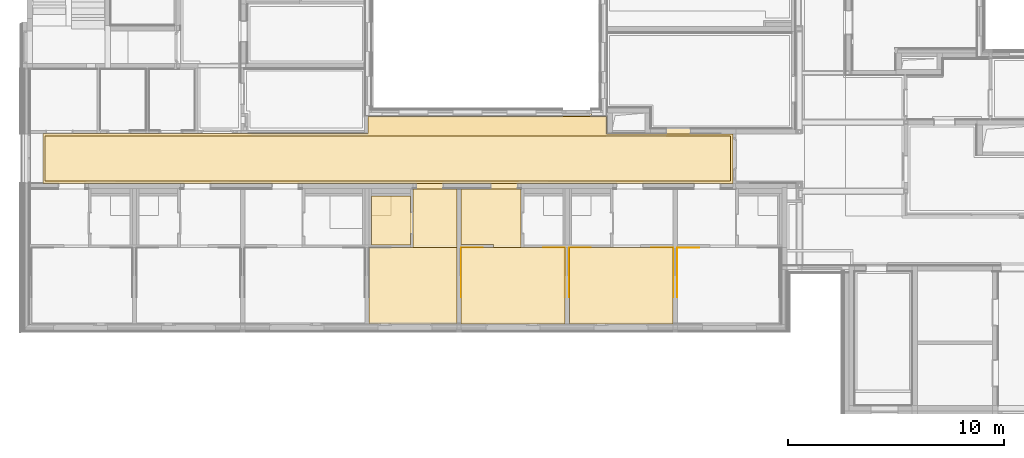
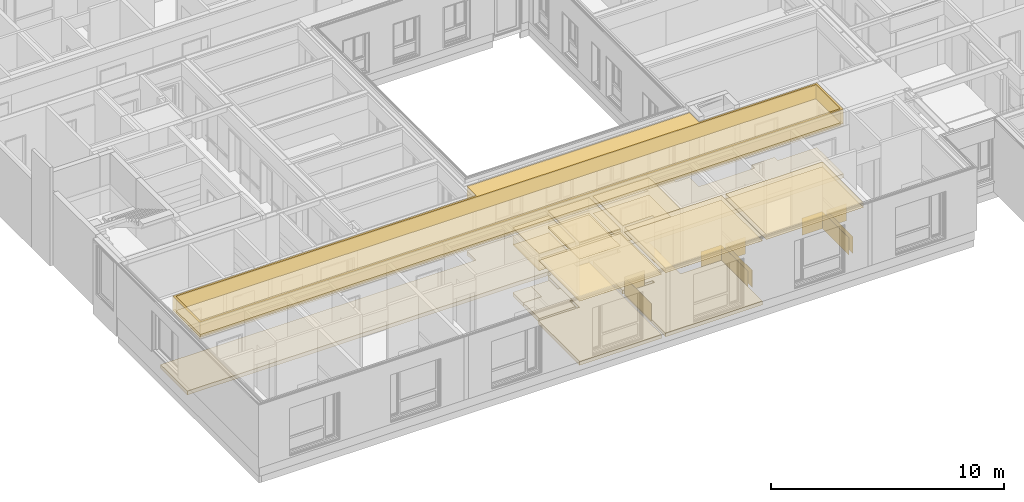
# One storey, part 160 of 207: 40 coverings.
"""IFC4 building model written with IfcOpenShell, lengths in metres."""

from ifc_helpers import new_model, entity, si_unit, converted_unit, derived_unit, frame, frame_2d, origin, origin_with_axes, place, context, subcontext, project, spatial, polyline, rectangle, outline, extrude, material, layer, layer_set, layer_usage, element, save


model = new_model("IFC4")

# Units and contexts
model_context = context("Model", 3, precision=1e-05, world=origin())
body_context = subcontext(model_context, "Body", "Model", "MODEL_VIEW")
ifc_project = project(units=[si_unit("LENGTHUNIT", "METRE"), si_unit("AREAUNIT", "SQUARE_METRE"), si_unit("VOLUMEUNIT", "CUBIC_METRE"), si_unit("MASSUNIT", "GRAM", prefix="KILO"), converted_unit("PLANEANGLEUNIT", "DEGREE", entity("IfcPlaneAngleMeasure", 0.0174532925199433), si_unit("PLANEANGLEUNIT", "RADIAN"), dimensions=[0, 0, 0, 0, 0, 0, 0]), derived_unit("THERMALTRANSMITTANCEUNIT", [(si_unit("POWERUNIT", "WATT"), 1), (si_unit("THERMODYNAMICTEMPERATUREUNIT", "KELVIN"), -1), (si_unit("LENGTHUNIT", "METRE"), -2)]), derived_unit("VOLUMETRICFLOWRATEUNIT", [(si_unit("LENGTHUNIT", "METRE"), 3), (converted_unit("TIMEUNIT", "hour", entity("IfcTimeMeasure", 3600.0), si_unit("TIMEUNIT", "SECOND"), dimensions=[0, 0, 1, 0, 0, 0, 0]), -1), (si_unit("LENGTHUNIT", "METRE"), -1)])], contexts=[model_context])

# Site, building, storey, space
site_placement = place(None, origin())
site = spatial("IfcSite", under=ifc_project, at=site_placement, Name="Psychiatrie Neubau Wunstorf", CompositionType="ELEMENT")
building_placement = place(site_placement, origin())
building = spatial("IfcBuilding", under=site, at=building_placement, Name="Neubau H2 Stationsgebäude", CompositionType="ELEMENT")
storey_placement = place(building_placement, frame((0.0, 0.0, -0.2)))
storey = spatial("IfcBuildingStorey", under=building, at=storey_placement, Name="H2 Ebene 0", CompositionType="ELEMENT", Elevation=-0.2)
space_1_placement = place(storey_placement, frame((0.169, 4.33074963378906, 0.0)))
space_1 = spatial("IfcSpace", under=storey, at=space_1_placement, Name="WUN-H2-E00-F04", CompositionType="ELEMENT")

# Coverings
ifc_material_1 = material(Name="Ku1")
ifc_layer_1 = layer(ifc_material_1, 0.2)
ifc_layer_set_1 = layer_set([ifc_layer_1])
ifc_layer_usage_1 = layer_usage(ifc_layer_set_1, "AXIS3", "POSITIVE", 0.0)
covering_1_placement = place(space_1_placement, origin())
element("IfcCovering", 1, at=covering_1_placement, inside=space_1, material=ifc_layer_usage_1, Name="PVC Bahnenware Holzoptik", PredefinedType="FLOORING", context=body_context, shape_type="SweptSolid", body=[
    extrude(rectangle(XDim=0.312, YDim=1.35, at=frame_2d((-0.674999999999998, 0.156), x_axis=(0.0, 1.0))), frame((25.9511686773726, 3.08325036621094, 0.0), z_axis=(0.0, 0.0, 1.0), x_axis=(1.0, 0.0, 0.0)), (0.0, 0.0, 1.0), 0.2),
    extrude(rectangle(XDim=0.272, YDim=1.135, at=frame_2d((-0.5675, 0.136), x_axis=(0.0, 1.0))), frame((30.546, 2.2812503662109, 0.0), z_axis=(0.0, 0.0, 1.0), x_axis=(1.0, 0.0, 0.0)), (0.0, 0.0, 1.0), 0.2),
    extrude(outline(polyline([(26.6510003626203, 2.2812503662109), (26.6510003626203, 3.08325036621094), (15.62, 3.08325036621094), (15.62, 2.2942502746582), (0.0, 2.29425027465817), (0.0, 0.0), (32.4944999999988, 0.0), (32.4944999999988, 2.28125036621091), (26.6510003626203, 2.2812503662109)])), origin_with_axes(), (0.0, 0.0, 1.0), 0.2),
])
ifc_material_2 = material()
ifc_layer_2 = layer(ifc_material_2, 0.036)
ifc_layer_set_2 = layer_set([ifc_layer_2])
ifc_layer_usage_2 = layer_usage(ifc_layer_set_2, "AXIS3", "POSITIVE", 0.0)
covering_2_placement = place(space_1_placement, frame((0.701000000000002, 0.100000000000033, 3.6)))
element("IfcCovering", 2, at=covering_2_placement, inside=space_1, material=ifc_layer_usage_2, Name="Gipsfaserplatten 2-lagig (BSK)", PredefinedType="CEILING", context=body_context, shape_type="SweptSolid", body=[
    extrude(outline(polyline([(0.0, 2.09425036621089), (0.0, 0.0), (31.6934999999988, 0.0129999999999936), (31.6934999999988, 2.09425036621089), (0.0, 2.09425036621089)])), frame((0.0, 2.09425036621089, 0.0), z_axis=(0.0, 0.0, -1.0), x_axis=(1.0, 0.0, 0.0)), (0.0, 0.0, 1.0), 0.036),
])
ifc_material_3 = material(Name="Installationshöhe")
ifc_layer_3 = layer(ifc_material_3, 0.714)
ifc_layer_set_3 = layer_set([ifc_layer_3])
ifc_layer_usage_3 = layer_usage(ifc_layer_set_3, "AXIS3", "POSITIVE", 0.0)
covering_3_placement = place(space_1_placement, frame((0.701000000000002, 0.100000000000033, 3.564)))
element("IfcCovering", 3, at=covering_3_placement, inside=space_1, material=ifc_layer_usage_3, Name="Gipsfaserplatten 2-lagig (BSK)", PredefinedType="CEILING", context=body_context, shape_type="SweptSolid", body=[
    extrude(outline(polyline([(0.0, 2.09425036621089), (0.0, 0.0), (31.6934999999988, 0.0129999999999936), (31.6934999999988, 2.09425036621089), (0.0, 2.09425036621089)])), frame((0.0, 2.09425036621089, 0.0), z_axis=(0.0, 0.0, -1.0), x_axis=(1.0, 0.0, 0.0)), (0.0, 0.0, 1.0), 0.714),
])
ifc_material_4 = material(Name="Aa")
ifc_layer_4 = layer(ifc_material_4, 0.15)
ifc_layer_set_4 = layer_set([ifc_layer_4])
ifc_layer_usage_4 = layer_usage(ifc_layer_set_4, "AXIS3", "POSITIVE", 0.0)
covering_4_placement = place(space_1_placement, frame((0.701000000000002, 0.100000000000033, 2.85)))
element("IfcCovering", 4, at=covering_4_placement, inside=space_1, material=ifc_layer_usage_4, Name="Gipsfaserplatten 2-lagig (BSK)", PredefinedType="CEILING", context=body_context, shape_type="SweptSolid", body=[
    extrude(outline(polyline([(0.0, 2.09425036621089), (0.0, 0.0), (31.6934999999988, 0.0129999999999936), (31.6934999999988, 2.09425036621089), (0.0, 2.09425036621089)])), frame((0.0, 2.09425036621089, 0.0), z_axis=(0.0, 0.0, -1.0), x_axis=(1.0, 0.0, 0.0)), (0.0, 0.0, 1.0), 0.15),
])
ifc_material_5 = material(Name="D1")
ifc_layer_5 = layer(ifc_material_5, 0.001)
ifc_layer_set_5 = layer_set([ifc_layer_5])
ifc_layer_usage_5 = layer_usage(ifc_layer_set_5, "AXIS3", "POSITIVE", 0.0)
covering_5_placement = place(space_1_placement, frame((0.701000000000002, 0.100000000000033, 2.7)))
element("IfcCovering", 5, at=covering_5_placement, inside=space_1, material=ifc_layer_usage_5, Name="Gipsfaserplatten 2-lagig (BSK)", PredefinedType="CEILING", context=body_context, shape_type="SweptSolid", body=[
    extrude(outline(polyline([(0.0, 2.09425036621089), (0.0, 0.0), (31.6934999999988, 0.0129999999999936), (31.6934999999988, 2.09425036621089), (0.0, 2.09425036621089)])), frame((0.0, 2.09425036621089, 0.0), z_axis=(0.0, 0.0, -1.0), x_axis=(1.0, 0.0, 0.0)), (0.0, 0.0, 1.0), 0.001),
])
ifc_material_6 = material()
ifc_layer_6 = layer(ifc_material_6, 0.036)
ifc_layer_set_6 = layer_set([ifc_layer_6])
ifc_layer_usage_6 = layer_usage(ifc_layer_set_6, "AXIS3", "POSITIVE", 0.0)
covering_6_placement = place(space_1_placement, frame((0.600999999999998, 0.0, 3.6)))
element("IfcCovering", 6, at=covering_6_placement, inside=space_1, material=ifc_layer_usage_6, Name="Gipsfaserplatten 2-lagig (BSK)", PredefinedType="CEILING", context=body_context, shape_type="SweptSolid", body=[
    extrude(outline(polyline([(26.0500003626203, 0.802000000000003), (31.8934999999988, 0.802000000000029), (31.8934999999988, 3.0832503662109), (0.0, 3.0832503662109), (0.0, 0.789), (15.019, 0.789000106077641), (15.019, 0.0), (26.0500003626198, 0.0), (26.0500003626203, 0.802000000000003)]), holes=[polyline([(31.7934999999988, 2.9832503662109), (31.7934999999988, 0.902000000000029), (0.1, 0.889000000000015), (0.1, 2.9832503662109), (31.7934999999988, 2.9832503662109)])]), frame((0.0, 3.0832503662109, 0.0), z_axis=(0.0, 0.0, -1.0), x_axis=(1.0, 0.0, 0.0)), (0.0, 0.0, 1.0), 0.036),
])
ifc_material_7 = material(Name="Installationshöhe")
ifc_layer_7 = layer(ifc_material_7, 0.714)
ifc_layer_set_7 = layer_set([ifc_layer_7])
ifc_layer_usage_7 = layer_usage(ifc_layer_set_7, "AXIS3", "POSITIVE", 0.0)
covering_7_placement = place(space_1_placement, frame((0.600999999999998, 0.0, 3.564)))
element("IfcCovering", 7, at=covering_7_placement, inside=space_1, material=ifc_layer_usage_7, Name="Gipsfaserplatten 2-lagig (BSK)", PredefinedType="CEILING", context=body_context, shape_type="SweptSolid", body=[
    extrude(outline(polyline([(26.0500003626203, 0.802000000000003), (31.8934999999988, 0.802000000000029), (31.8934999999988, 3.0832503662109), (0.0, 3.0832503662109), (0.0, 0.789), (15.019, 0.789000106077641), (15.019, 0.0), (26.0500003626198, 0.0), (26.0500003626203, 0.802000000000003)]), holes=[polyline([(31.7934999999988, 2.9832503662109), (31.7934999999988, 0.902000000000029), (0.1, 0.889000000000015), (0.1, 2.9832503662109), (31.7934999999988, 2.9832503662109)])]), frame((0.0, 3.0832503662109, 0.0), z_axis=(0.0, 0.0, -1.0), x_axis=(1.0, 0.0, 0.0)), (0.0, 0.0, 1.0), 0.714),
])
ifc_material_8 = material(Name="A1")
ifc_layer_8 = layer(ifc_material_8, 0.15)
ifc_layer_set_8 = layer_set([ifc_layer_8])
ifc_layer_usage_8 = layer_usage(ifc_layer_set_8, "AXIS3", "POSITIVE", 0.0)
covering_8_placement = place(space_1_placement, frame((0.600999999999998, 0.0, 2.85)))
element("IfcCovering", 8, at=covering_8_placement, inside=space_1, material=ifc_layer_usage_8, Name="Gipsfaserplatten 2-lagig (BSK)", PredefinedType="CEILING", context=body_context, shape_type="SweptSolid", body=[
    extrude(outline(polyline([(26.0500003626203, 0.802000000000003), (31.8934999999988, 0.802000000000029), (31.8934999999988, 3.0832503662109), (0.0, 3.0832503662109), (0.0, 0.789), (15.019, 0.789000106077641), (15.019, 0.0), (26.0500003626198, 0.0), (26.0500003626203, 0.802000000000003)]), holes=[polyline([(31.7934999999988, 2.9832503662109), (31.7934999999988, 0.902000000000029), (0.1, 0.889000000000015), (0.1, 2.9832503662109), (31.7934999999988, 2.9832503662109)])]), frame((0.0, 3.0832503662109, 0.0), z_axis=(0.0, 0.0, -1.0), x_axis=(1.0, 0.0, 0.0)), (0.0, 0.0, 1.0), 0.15),
])
ifc_material_9 = material(Name="D1")
ifc_layer_9 = layer(ifc_material_9, 0.001)
ifc_layer_set_9 = layer_set([ifc_layer_9])
ifc_layer_usage_9 = layer_usage(ifc_layer_set_9, "AXIS3", "POSITIVE", 0.0)
covering_9_placement = place(space_1_placement, frame((0.600999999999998, 0.0, 2.7)))
element("IfcCovering", 9, at=covering_9_placement, inside=space_1, material=ifc_layer_usage_9, Name="Gipsfaserplatten 2-lagig (BSK)", PredefinedType="CEILING", context=body_context, shape_type="SweptSolid", body=[
    extrude(outline(polyline([(26.0500003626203, 0.802000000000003), (31.8934999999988, 0.802000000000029), (31.8934999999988, 3.0832503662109), (0.0, 3.0832503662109), (0.0, 0.789), (15.019, 0.789000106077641), (15.019, 0.0), (26.0500003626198, 0.0), (26.0500003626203, 0.802000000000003)]), holes=[polyline([(31.7934999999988, 2.9832503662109), (31.7934999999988, 0.902000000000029), (0.1, 0.889000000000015), (0.1, 2.9832503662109), (31.7934999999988, 2.9832503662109)])]), frame((0.0, 3.0832503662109, 0.0), z_axis=(0.0, 0.0, -1.0), x_axis=(1.0, 0.0, 0.0)), (0.0, 0.0, 1.0), 0.001),
])

# Space
space_2_placement = place(storey_placement, frame((15.95, 1.48374963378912, 0.0)))
space_2 = spatial("IfcSpace", under=storey, at=space_2_placement, Name="WUN-H2-E00-022a", CompositionType="ELEMENT")

# Coverings
ifc_material_10 = material(Name="Fl1")
ifc_layer_10 = layer(ifc_material_10, 0.2)
ifc_layer_set_10 = layer_set([ifc_layer_10])
ifc_layer_usage_10 = layer_usage(ifc_layer_set_10, "AXIS3", "POSITIVE", 0.0)
covering_10_placement = place(space_2_placement, origin())
element("IfcCovering", 10, at=covering_10_placement, inside=space_2, material=ifc_layer_usage_10, Name="Fliesen", PredefinedType="FLOORING", context=body_context, shape_type="SweptSolid", body=[
    extrude(rectangle(XDim=0.125, YDim=1.01, at=frame_2d((-0.0625, -0.505), x_axis=(-1.0, 0.0))), frame((1.925, 1.50999999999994, 0.0), z_axis=(0.0, 0.0, 1.0), x_axis=(1.0, 0.0, 0.0)), (0.0, 0.0, 1.0), 0.2),
    extrude(outline(polyline([(0.0, 0.0), (1.8, 0.0), (1.8, 2.265), (0.900000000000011, 2.265), (0.900000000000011, 1.36499999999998), (0.0, 1.36499999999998), (0.0, 0.0)])), origin_with_axes(), (0.0, 0.0, 1.0), 0.2),
])
ifc_material_11 = material(Name="Fl2")
ifc_layer_11 = layer(ifc_material_11, 0.2)
ifc_layer_set_11 = layer_set([ifc_layer_11])
ifc_layer_usage_11 = layer_usage(ifc_layer_set_11, "AXIS3", "POSITIVE", 0.0)
covering_11_placement = place(space_2_placement, frame((0.0, 1.36499999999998, 0.0)))
element("IfcCovering", 11, at=covering_11_placement, inside=space_2, material=ifc_layer_usage_11, Name="Fliesen Mosaik", PredefinedType="FLOORING", context=body_context, shape_type="SweptSolid", body=[
    extrude(rectangle(XDim=0.899999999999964, YDim=0.900000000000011, at=frame_2d((0.450000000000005, -0.449999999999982), x_axis=(0.0, -1.0))), frame((0.0, 0.899999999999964, 0.0), z_axis=(0.0, 0.0, 1.0), x_axis=(1.0, 0.0, 0.0)), (0.0, 0.0, 1.0), 0.2),
])
ifc_material_12 = material()
ifc_layer_12 = layer(ifc_material_12, 0.036)
ifc_layer_set_12 = layer_set([ifc_layer_12])
ifc_layer_usage_12 = layer_usage(ifc_layer_set_12, "AXIS3", "POSITIVE", 0.0)
covering_12_placement = place(space_2_placement, frame((0.0, 0.0, 3.6)))
element("IfcCovering", 12, at=covering_12_placement, inside=space_2, material=ifc_layer_usage_12, Name="Gipsfaserplatten 2-lagig (BSK)", PredefinedType="CEILING", context=body_context, shape_type="SweptSolid", body=[
    extrude(rectangle(XDim=2.265, YDim=1.8, at=frame_2d((0.9, -1.1325), x_axis=(0.0, -1.0))), frame((0.0, 0.0, 0.0), z_axis=(0.0, 0.0, -1.0), x_axis=(1.0, 0.0, 0.0)), (0.0, 0.0, 1.0), 0.036),
])
ifc_material_13 = material(Name="Installationshöhe")
ifc_layer_13 = layer(ifc_material_13, 0.764)
ifc_layer_set_13 = layer_set([ifc_layer_13])
ifc_layer_usage_13 = layer_usage(ifc_layer_set_13, "AXIS3", "POSITIVE", 0.0)
covering_13_placement = place(space_2_placement, frame((0.0, 0.0, 3.564)))
element("IfcCovering", 13, at=covering_13_placement, inside=space_2, material=ifc_layer_usage_13, Name="Gipsfaserplatten 2-lagig (BSK)", PredefinedType="CEILING", context=body_context, shape_type="SweptSolid", body=[
    extrude(rectangle(XDim=2.265, YDim=1.8, at=frame_2d((0.9, -1.1325), x_axis=(0.0, -1.0))), frame((0.0, 0.0, 0.0), z_axis=(0.0, 0.0, -1.0), x_axis=(1.0, 0.0, 0.0)), (0.0, 0.0, 1.0), 0.764),
])
ifc_material_14 = material(Name="B")
ifc_layer_14 = layer(ifc_material_14, 0.1)
ifc_layer_set_14 = layer_set([ifc_layer_14])
ifc_layer_usage_14 = layer_usage(ifc_layer_set_14, "AXIS3", "POSITIVE", 0.0)
covering_14_placement = place(space_2_placement, frame((0.0, 0.0, 2.8)))
element("IfcCovering", 14, at=covering_14_placement, inside=space_2, material=ifc_layer_usage_14, Name="Gipskarton, imprägniert", PredefinedType="CEILING", context=body_context, shape_type="SweptSolid", body=[
    extrude(rectangle(XDim=2.265, YDim=1.8, at=frame_2d((0.9, -1.1325), x_axis=(0.0, -1.0))), frame((0.0, 0.0, 0.0), z_axis=(0.0, 0.0, -1.0), x_axis=(1.0, 0.0, 0.0)), (0.0, 0.0, 1.0), 0.1),
])
ifc_material_15 = material(Name="D1")
ifc_layer_15 = layer(ifc_material_15, 0.001)
ifc_layer_set_15 = layer_set([ifc_layer_15])
ifc_layer_usage_15 = layer_usage(ifc_layer_set_15, "AXIS3", "POSITIVE", 0.0)
covering_15_placement = place(space_2_placement, frame((0.0, 0.0, 2.7)))
element("IfcCovering", 15, at=covering_15_placement, inside=space_2, material=ifc_layer_usage_15, Name="Gipsfaserplatten 2-lagig (BSK)", PredefinedType="CEILING", context=body_context, shape_type="SweptSolid", body=[
    extrude(rectangle(XDim=2.265, YDim=1.8, at=frame_2d((0.9, -1.1325), x_axis=(0.0, -1.0))), frame((0.0, 0.0, 0.0), z_axis=(0.0, 0.0, -1.0), x_axis=(1.0, 0.0, 0.0)), (0.0, 0.0, 1.0), 0.001),
])

# Space
space_3_placement = place(storey_placement, frame((15.85, -2.16399999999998, 0.0)))
space_3 = spatial("IfcSpace", under=storey, at=space_3_placement, Name="WUN-H2-E00-022", CompositionType="ELEMENT")

# Coverings
ifc_material_16 = material(Name="Ku1")
ifc_layer_16 = layer(ifc_material_16, 0.2)
ifc_layer_set_16 = layer_set([ifc_layer_16])
ifc_layer_usage_16 = layer_usage(ifc_layer_set_16, "AXIS3", "POSITIVE", 0.0)
covering_16_placement = place(space_3_placement, origin())
element("IfcCovering", 16, at=covering_16_placement, inside=space_3, material=ifc_layer_usage_16, Name="PVC Bahnenware Holzoptik", PredefinedType="FLOORING", context=body_context, shape_type="SweptSolid", body=[
    extrude(rectangle(XDim=0.2715, YDim=1.26, at=frame_2d((-0.63, 0.13575), x_axis=(0.0, 1.0))), frame((3.435, 6.22324963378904, 0.0), z_axis=(0.0, 0.0, 1.0), x_axis=(1.0, 0.0, 0.0)), (0.0, 0.0, 1.0), 0.2),
    extrude(outline(polyline([(2.025, 6.22324963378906), (2.025, 3.52274963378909), (0.0, 3.52274963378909), (0.0, 0.0), (4.05, 0.0), (4.05, 6.22324963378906), (2.025, 6.22324963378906)])), origin_with_axes(), (0.0, 0.0, 1.0), 0.2),
])
ifc_material_17 = material()
ifc_layer_17 = layer(ifc_material_17, 0.036)
ifc_layer_set_17 = layer_set([ifc_layer_17])
ifc_layer_usage_17 = layer_usage(ifc_layer_set_17, "AXIS3", "POSITIVE", 0.0)
covering_17_placement = place(space_3_placement, frame((2.025, 3.52274963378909, 3.6)))
element("IfcCovering", 17, at=covering_17_placement, inside=space_3, material=ifc_layer_usage_17, Name="Gipsfaserplatten 2-lagig (BSK)", PredefinedType="CEILING", context=body_context, shape_type="SweptSolid", body=[
    extrude(rectangle(XDim=2.025, YDim=2.70049999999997, at=frame_2d((1.0125, 1.35024999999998), x_axis=(1.0, 0.0))), frame((0.0, 2.70049999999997, 0.0), z_axis=(0.0, 0.0, -1.0), x_axis=(1.0, 0.0, 0.0)), (0.0, 0.0, 1.0), 0.036),
])
ifc_material_18 = material(Name="Installationshöhe")
ifc_layer_18 = layer(ifc_material_18, 0.764)
ifc_layer_set_18 = layer_set([ifc_layer_18])
ifc_layer_usage_18 = layer_usage(ifc_layer_set_18, "AXIS3", "POSITIVE", 0.0)
covering_18_placement = place(space_3_placement, frame((2.025, 3.52274963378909, 3.564)))
element("IfcCovering", 18, at=covering_18_placement, inside=space_3, material=ifc_layer_usage_18, Name="Gipsfaserplatten 2-lagig (BSK)", PredefinedType="CEILING", context=body_context, shape_type="SweptSolid", body=[
    extrude(rectangle(XDim=2.025, YDim=2.70049999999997, at=frame_2d((1.0125, 1.35024999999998), x_axis=(1.0, 0.0))), frame((0.0, 2.70049999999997, 0.0), z_axis=(0.0, 0.0, -1.0), x_axis=(1.0, 0.0, 0.0)), (0.0, 0.0, 1.0), 0.764),
])
ifc_material_19 = material(Name="A1")
ifc_layer_19 = layer(ifc_material_19, 0.1)
ifc_layer_set_19 = layer_set([ifc_layer_19])
ifc_layer_usage_19 = layer_usage(ifc_layer_set_19, "AXIS3", "POSITIVE", 0.0)
covering_19_placement = place(space_3_placement, frame((2.025, 3.52274963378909, 2.8)))
element("IfcCovering", 19, at=covering_19_placement, inside=space_3, material=ifc_layer_usage_19, Name="Gipsfaserplatten 2-lagig (BSK)", PredefinedType="CEILING", context=body_context, shape_type="SweptSolid", body=[
    extrude(rectangle(XDim=2.025, YDim=2.70049999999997, at=frame_2d((1.0125, 1.35024999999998), x_axis=(1.0, 0.0))), frame((0.0, 2.70049999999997, 0.0), z_axis=(0.0, 0.0, -1.0), x_axis=(1.0, 0.0, 0.0)), (0.0, 0.0, 1.0), 0.1),
])
ifc_material_20 = material(Name="D1")
ifc_layer_20 = layer(ifc_material_20, 0.001)
ifc_layer_set_20 = layer_set([ifc_layer_20])
ifc_layer_usage_20 = layer_usage(ifc_layer_set_20, "AXIS3", "POSITIVE", 0.0)
covering_20_placement = place(space_3_placement, frame((2.025, 3.52274963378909, 2.7)))
element("IfcCovering", 20, at=covering_20_placement, inside=space_3, material=ifc_layer_usage_20, Name="Gipsfaserplatten 2-lagig (BSK)", PredefinedType="CEILING", context=body_context, shape_type="SweptSolid", body=[
    extrude(rectangle(XDim=2.025, YDim=2.70049999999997, at=frame_2d((1.0125, 1.35024999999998), x_axis=(1.0, 0.0))), frame((0.0, 2.70049999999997, 0.0), z_axis=(0.0, 0.0, -1.0), x_axis=(1.0, 0.0, 0.0)), (0.0, 0.0, 1.0), 0.001),
])
ifc_material_21 = material(Name="A1")
ifc_layer_21 = layer(ifc_material_21, 0.1)
ifc_layer_set_21 = layer_set([ifc_layer_21])
ifc_layer_usage_21 = layer_usage(ifc_layer_set_21, "AXIS3", "POSITIVE", 0.0)
covering_21_placement = place(space_3_placement, frame((0.0, 0.0, 3.45)))
element("IfcCovering", 21, at=covering_21_placement, inside=space_3, material=ifc_layer_usage_21, Name="Gipsfaserplatten 2-lagig (BSK)", PredefinedType="CEILING", context=body_context, shape_type="SweptSolid", body=[
    extrude(rectangle(XDim=3.52274963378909, YDim=4.05, at=frame_2d((-2.025, 1.76137481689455), x_axis=(0.0, 1.0))), frame((4.05, 3.52274963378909, 0.0), z_axis=(0.0, 0.0, -1.0), x_axis=(1.0, 0.0, 0.0)), (0.0, 0.0, 1.0), 0.1),
])
ifc_material_22 = material(Name="D1")
ifc_layer_22 = layer(ifc_material_22, 0.001)
ifc_layer_set_22 = layer_set([ifc_layer_22])
ifc_layer_usage_22 = layer_usage(ifc_layer_set_22, "AXIS3", "POSITIVE", 0.0)
covering_22_placement = place(space_3_placement, frame((0.0, 0.0, 3.35)))
element("IfcCovering", 22, at=covering_22_placement, inside=space_3, material=ifc_layer_usage_22, Name="Gipsfaserplatten 2-lagig (BSK)", PredefinedType="CEILING", context=body_context, shape_type="SweptSolid", body=[
    extrude(rectangle(XDim=3.52274963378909, YDim=4.05, at=frame_2d((-2.025, 1.76137481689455), x_axis=(0.0, 1.0))), frame((4.05, 3.52274963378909, 0.0), z_axis=(0.0, 0.0, -1.0), x_axis=(1.0, 0.0, 0.0)), (0.0, 0.0, 1.0), 0.001),
])

# Space
space_4_placement = place(storey_placement, frame((20.1, -2.16399999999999, 0.0)))
space_4 = spatial("IfcSpace", under=storey, at=space_4_placement, Name="WUN-H2-E00-021", CompositionType="ELEMENT")

# Coverings
ifc_material_23 = material(Name="84")
ifc_layer_23 = layer(ifc_material_23, 0.001)
ifc_layer_set_23 = layer_set([ifc_layer_23])
ifc_layer_usage_23 = layer_usage(ifc_layer_set_23, "AXIS3", "POSITIVE", 0.0)
covering_23_placement = place(space_4_placement, frame((0.0, 1.22274963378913, 0.1)))
element("IfcCovering", 23, at=covering_23_placement, inside=space_4, material=ifc_layer_usage_23, Name="Acrobyn", PredefinedType="CLADDING", context=body_context, shape_type="SweptSolid", body=[
    extrude(rectangle(XDim=1.0, YDim=0.9, at=frame_2d((0.5, -0.45), x_axis=(1.0, 0.0))), frame((1.0, 2.3, 0.0), z_axis=(0.0, -1.0, 0.0), x_axis=(-1.0, 0.0, 0.0)), (0.0, 0.0, 1.0), 0.001),
    extrude(rectangle(XDim=2.3, YDim=0.9, at=frame_2d((1.15, -0.45), x_axis=(1.0, 0.0))), frame((0.0, 2.3, 0.0), z_axis=(1.0, 0.0, 0.0), x_axis=(0.0, -1.0, 0.0)), (0.0, 0.0, 1.0), 0.001),
])
ifc_material_24 = material(Name="84")
ifc_layer_24 = layer(ifc_material_24, 0.001)
ifc_layer_set_24 = layer_set([ifc_layer_24])
ifc_layer_usage_24 = layer_usage(ifc_layer_set_24, "AXIS3", "POSITIVE", 0.0)
covering_24_placement = place(space_4_placement, frame((3.8, 1.22274957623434, 0.1)))
element("IfcCovering", 24, at=covering_24_placement, inside=space_4, material=ifc_layer_usage_24, Name="Acrobyn", PredefinedType="CLADDING", context=body_context, shape_type="SweptSolid", body=[
    extrude(rectangle(XDim=0.9, YDim=1.0, at=frame_2d((-0.5, -0.45), x_axis=(0.0, -1.0))), frame((0.0, 2.3, 0.0), z_axis=(4.54747350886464e-16, -1.0, 0.0), x_axis=(-1.0, -4.54747350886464e-16, 0.0)), (0.0, 0.0, 1.0), 0.001),
    extrude(rectangle(XDim=0.9, YDim=2.3, at=frame_2d((-1.15, -0.45), x_axis=(0.0, -1.0))), frame((1.0, 2.3, 0.0), z_axis=(-1.0, 0.0, 0.0), x_axis=(0.0, 1.0, 0.0)), (0.0, 0.0, 1.0), 0.001),
])
ifc_material_25 = material(Name="Ku1")
ifc_layer_25 = layer(ifc_material_25, 0.2)
ifc_layer_set_25 = layer_set([ifc_layer_25])
ifc_layer_usage_25 = layer_usage(ifc_layer_set_25, "AXIS3", "POSITIVE", 0.0)
covering_25_placement = place(space_4_placement, origin())
element("IfcCovering", 25, at=covering_25_placement, inside=space_4, material=ifc_layer_usage_25, Name="PVC Bahnenware Holzoptik", PredefinedType="FLOORING", context=body_context, shape_type="SweptSolid", body=[
    extrude(rectangle(XDim=0.2715, YDim=1.26, at=frame_2d((-0.63, 0.13575), x_axis=(0.0, 1.0))), frame((2.625, 6.22324963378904, 0.0), z_axis=(0.0, 0.0, 1.0), x_axis=(1.0, 0.0, 0.0)), (0.0, 0.0, 1.0), 0.2),
    extrude(outline(polyline([(2.77500000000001, 3.5227496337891), (2.775, 6.22324963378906), (0.0, 6.22324963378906), (0.0, 3.67274963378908), (1.5, 3.67274963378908), (1.5, 3.52274963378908), (0.0, 3.52274963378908), (0.0, 0.0), (4.8, 0.0), (4.8, 3.5227496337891), (2.77500000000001, 3.5227496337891)])), origin_with_axes(), (0.0, 0.0, 1.0), 0.2),
])
ifc_material_26 = material()
ifc_layer_26 = layer(ifc_material_26, 0.036)
ifc_layer_set_26 = layer_set([ifc_layer_26])
ifc_layer_usage_26 = layer_usage(ifc_layer_set_26, "AXIS3", "POSITIVE", 0.0)
covering_26_placement = place(space_4_placement, frame((0.0, 3.52274963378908, 3.6)))
element("IfcCovering", 26, at=covering_26_placement, inside=space_4, material=ifc_layer_usage_26, Name="Gipsfaserplatten 2-lagig (BSK)", PredefinedType="CEILING", context=body_context, shape_type="SweptSolid", body=[
    extrude(outline(polyline([(0.0, 0.0), (2.775, 0.0), (2.775, 2.70049999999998), (1.5, 2.70049999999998), (1.5, 2.55049999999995), (0.0, 2.55049999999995), (0.0, 0.0)])), frame((0.0, 2.70049999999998, 0.0), z_axis=(0.0, 0.0, -1.0), x_axis=(1.0, 0.0, 0.0)), (0.0, 0.0, 1.0), 0.036),
])
ifc_material_27 = material(Name="Installationshöhe")
ifc_layer_27 = layer(ifc_material_27, 0.764)
ifc_layer_set_27 = layer_set([ifc_layer_27])
ifc_layer_usage_27 = layer_usage(ifc_layer_set_27, "AXIS3", "POSITIVE", 0.0)
covering_27_placement = place(space_4_placement, frame((0.0, 3.52274963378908, 3.564)))
element("IfcCovering", 27, at=covering_27_placement, inside=space_4, material=ifc_layer_usage_27, Name="Gipsfaserplatten 2-lagig (BSK)", PredefinedType="CEILING", context=body_context, shape_type="SweptSolid", body=[
    extrude(outline(polyline([(0.0, 0.0), (2.775, 0.0), (2.775, 2.70049999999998), (1.5, 2.70049999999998), (1.5, 2.55049999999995), (0.0, 2.55049999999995), (0.0, 0.0)])), frame((0.0, 2.70049999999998, 0.0), z_axis=(0.0, 0.0, -1.0), x_axis=(1.0, 0.0, 0.0)), (0.0, 0.0, 1.0), 0.764),
])
ifc_material_28 = material(Name="A1")
ifc_layer_28 = layer(ifc_material_28, 0.1)
ifc_layer_set_28 = layer_set([ifc_layer_28])
ifc_layer_usage_28 = layer_usage(ifc_layer_set_28, "AXIS3", "POSITIVE", 0.0)
covering_28_placement = place(space_4_placement, frame((0.0, 3.52274963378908, 2.8)))
element("IfcCovering", 28, at=covering_28_placement, inside=space_4, material=ifc_layer_usage_28, Name="Gipsfaserplatten 2-lagig (BSK)", PredefinedType="CEILING", context=body_context, shape_type="SweptSolid", body=[
    extrude(outline(polyline([(0.0, 0.0), (2.775, 0.0), (2.775, 2.70049999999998), (1.5, 2.70049999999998), (1.5, 2.55049999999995), (0.0, 2.55049999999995), (0.0, 0.0)])), frame((0.0, 2.70049999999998, 0.0), z_axis=(0.0, 0.0, -1.0), x_axis=(1.0, 0.0, 0.0)), (0.0, 0.0, 1.0), 0.1),
])
ifc_material_29 = material(Name="D1")
ifc_layer_29 = layer(ifc_material_29, 0.001)
ifc_layer_set_29 = layer_set([ifc_layer_29])
ifc_layer_usage_29 = layer_usage(ifc_layer_set_29, "AXIS3", "POSITIVE", 0.0)
covering_29_placement = place(space_4_placement, frame((0.0, 3.52274963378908, 2.7)))
element("IfcCovering", 29, at=covering_29_placement, inside=space_4, material=ifc_layer_usage_29, Name="Gipsfaserplatten 2-lagig (BSK)", PredefinedType="CEILING", context=body_context, shape_type="SweptSolid", body=[
    extrude(outline(polyline([(0.0, 0.0), (2.775, 0.0), (2.775, 2.70049999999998), (1.5, 2.70049999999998), (1.5, 2.55049999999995), (0.0, 2.55049999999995), (0.0, 0.0)])), frame((0.0, 2.70049999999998, 0.0), z_axis=(0.0, 0.0, -1.0), x_axis=(1.0, 0.0, 0.0)), (0.0, 0.0, 1.0), 0.001),
])
ifc_material_30 = material()
ifc_layer_30 = layer(ifc_material_30, 0.036)
ifc_layer_set_30 = layer_set([ifc_layer_30])
ifc_layer_usage_30 = layer_usage(ifc_layer_set_30, "AXIS3", "POSITIVE", 0.0)
covering_30_placement = place(space_4_placement, frame((0.0, 0.0, 3.6)))
element("IfcCovering", 30, at=covering_30_placement, inside=space_4, material=ifc_layer_usage_30, Name="Gipsfaserplatten 2-lagig (BSK)", PredefinedType="CEILING", context=body_context, shape_type="SweptSolid", body=[
    extrude(rectangle(XDim=3.5227496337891, YDim=4.8, at=frame_2d((-2.4, 1.76137481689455), x_axis=(0.0, 1.0))), frame((4.8, 3.5227496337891, 0.0), z_axis=(0.0, 0.0, -1.0), x_axis=(1.0, 0.0, 0.0)), (0.0, 0.0, 1.0), 0.036),
])
ifc_material_31 = material(Name="Installationshöhe")
ifc_layer_31 = layer(ifc_material_31, 0.114)
ifc_layer_set_31 = layer_set([ifc_layer_31])
ifc_layer_usage_31 = layer_usage(ifc_layer_set_31, "AXIS3", "POSITIVE", 0.0)
covering_31_placement = place(space_4_placement, frame((0.0, 0.0, 3.564)))
element("IfcCovering", 31, at=covering_31_placement, inside=space_4, material=ifc_layer_usage_31, Name="Gipsfaserplatten 2-lagig (BSK)", PredefinedType="CEILING", context=body_context, shape_type="SweptSolid", body=[
    extrude(rectangle(XDim=3.5227496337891, YDim=4.8, at=frame_2d((-2.4, 1.76137481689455), x_axis=(0.0, 1.0))), frame((4.8, 3.5227496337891, 0.0), z_axis=(0.0, 0.0, -1.0), x_axis=(1.0, 0.0, 0.0)), (0.0, 0.0, 1.0), 0.114),
])
ifc_material_32 = material(Name="A1")
ifc_layer_32 = layer(ifc_material_32, 0.1)
ifc_layer_set_32 = layer_set([ifc_layer_32])
ifc_layer_usage_32 = layer_usage(ifc_layer_set_32, "AXIS3", "POSITIVE", 0.0)
covering_32_placement = place(space_4_placement, frame((0.0, 0.0, 3.45)))
element("IfcCovering", 32, at=covering_32_placement, inside=space_4, material=ifc_layer_usage_32, Name="Gipsfaserplatten 2-lagig (BSK)", PredefinedType="CEILING", context=body_context, shape_type="SweptSolid", body=[
    extrude(rectangle(XDim=3.5227496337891, YDim=4.8, at=frame_2d((-2.4, 1.76137481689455), x_axis=(0.0, 1.0))), frame((4.8, 3.5227496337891, 0.0), z_axis=(0.0, 0.0, -1.0), x_axis=(1.0, 0.0, 0.0)), (0.0, 0.0, 1.0), 0.1),
])
ifc_material_33 = material(Name="D1")
ifc_layer_33 = layer(ifc_material_33, 0.001)
ifc_layer_set_33 = layer_set([ifc_layer_33])
ifc_layer_usage_33 = layer_usage(ifc_layer_set_33, "AXIS3", "POSITIVE", 0.0)
covering_33_placement = place(space_4_placement, frame((0.0, 0.0, 3.35)))
element("IfcCovering", 33, at=covering_33_placement, inside=space_4, material=ifc_layer_usage_33, Name="Gipsfaserplatten 2-lagig (BSK)", PredefinedType="CEILING", context=body_context, shape_type="SweptSolid", body=[
    extrude(rectangle(XDim=3.5227496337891, YDim=4.8, at=frame_2d((-2.4, 1.76137481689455), x_axis=(0.0, 1.0))), frame((4.8, 3.5227496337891, 0.0), z_axis=(0.0, 0.0, -1.0), x_axis=(1.0, 0.0, 0.0)), (0.0, 0.0, 1.0), 0.001),
])

# Space
space_5_placement = place(storey_placement, frame((25.1, -2.16399999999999, 0.0)))
space_5 = spatial("IfcSpace", under=storey, at=space_5_placement, Name="WUN-H2-E00-020", CompositionType="ELEMENT")

# Coverings
ifc_material_34 = material(Name="84")
ifc_layer_34 = layer(ifc_material_34, 0.001)
ifc_layer_set_34 = layer_set([ifc_layer_34])
ifc_layer_usage_34 = layer_usage(ifc_layer_set_34, "AXIS3", "POSITIVE", 0.0)
covering_34_placement = place(space_5_placement, frame((0.0, 1.22274963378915, 0.1)))
element("IfcCovering", 34, at=covering_34_placement, inside=space_5, material=ifc_layer_usage_34, Name="Acrobyn", PredefinedType="CLADDING", context=body_context, shape_type="SweptSolid", body=[
    extrude(rectangle(XDim=1.0, YDim=0.9, at=frame_2d((0.5, -0.45), x_axis=(1.0, 0.0))), frame((1.0, 2.3, 0.0), z_axis=(0.0, -1.0, 0.0), x_axis=(-1.0, 0.0, 0.0)), (0.0, 0.0, 1.0), 0.001),
    extrude(rectangle(XDim=2.3, YDim=0.9, at=frame_2d((1.15, -0.45), x_axis=(1.0, 0.0))), frame((0.0, 2.3, 0.0), z_axis=(1.0, 0.0, 0.0), x_axis=(0.0, -1.0, 0.0)), (0.0, 0.0, 1.0), 0.001),
])
ifc_material_35 = material(Name="84")
ifc_layer_35 = layer(ifc_material_35, 0.001)
ifc_layer_set_35 = layer_set([ifc_layer_35])
ifc_layer_usage_35 = layer_usage(ifc_layer_set_35, "AXIS3", "POSITIVE", 0.0)
covering_35_placement = place(space_5_placement, frame((3.8, 1.22274957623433, 0.1)))
element("IfcCovering", 35, at=covering_35_placement, inside=space_5, material=ifc_layer_usage_35, Name="Acrobyn", PredefinedType="CLADDING", context=body_context, shape_type="SweptSolid", body=[
    extrude(rectangle(XDim=0.9, YDim=1.0, at=frame_2d((-0.5, -0.45), x_axis=(0.0, -1.0))), frame((0.0, 2.3, 0.0), z_axis=(4.54747350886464e-16, -1.0, 0.0), x_axis=(-1.0, -4.54747350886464e-16, 0.0)), (0.0, 0.0, 1.0), 0.001),
    extrude(rectangle(XDim=0.9, YDim=2.3, at=frame_2d((-1.15, -0.45), x_axis=(0.0, -1.0))), frame((1.0, 2.3, 0.0), z_axis=(-1.0, 0.0, 0.0), x_axis=(0.0, 1.0, 0.0)), (0.0, 0.0, 1.0), 0.001),
])
ifc_material_36 = material()
ifc_layer_36 = layer(ifc_material_36, 0.036)
ifc_layer_set_36 = layer_set([ifc_layer_36])
ifc_layer_usage_36 = layer_usage(ifc_layer_set_36, "AXIS3", "POSITIVE", 0.0)
covering_36_placement = place(space_5_placement, frame((0.0, 0.0, 3.6)))
element("IfcCovering", 36, at=covering_36_placement, inside=space_5, material=ifc_layer_usage_36, Name="Gipsfaserplatten 2-lagig (BSK)", PredefinedType="CEILING", context=body_context, shape_type="SweptSolid", body=[
    extrude(rectangle(XDim=3.52274963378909, YDim=4.8, at=frame_2d((-2.4, 1.76137481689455), x_axis=(0.0, 1.0))), frame((4.8, 3.52274963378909, 0.0), z_axis=(0.0, 0.0, -1.0), x_axis=(1.0, 0.0, 0.0)), (0.0, 0.0, 1.0), 0.036),
])
ifc_material_37 = material(Name="Installationshöhe")
ifc_layer_37 = layer(ifc_material_37, 0.114)
ifc_layer_set_37 = layer_set([ifc_layer_37])
ifc_layer_usage_37 = layer_usage(ifc_layer_set_37, "AXIS3", "POSITIVE", 0.0)
covering_37_placement = place(space_5_placement, frame((0.0, 0.0, 3.564)))
element("IfcCovering", 37, at=covering_37_placement, inside=space_5, material=ifc_layer_usage_37, Name="Gipsfaserplatten 2-lagig (BSK)", PredefinedType="CEILING", context=body_context, shape_type="SweptSolid", body=[
    extrude(rectangle(XDim=3.52274963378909, YDim=4.8, at=frame_2d((-2.4, 1.76137481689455), x_axis=(0.0, 1.0))), frame((4.8, 3.52274963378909, 0.0), z_axis=(0.0, 0.0, -1.0), x_axis=(1.0, 0.0, 0.0)), (0.0, 0.0, 1.0), 0.114),
])
ifc_material_38 = material(Name="A1")
ifc_layer_38 = layer(ifc_material_38, 0.1)
ifc_layer_set_38 = layer_set([ifc_layer_38])
ifc_layer_usage_38 = layer_usage(ifc_layer_set_38, "AXIS3", "POSITIVE", 0.0)
covering_38_placement = place(space_5_placement, frame((0.0, 0.0, 3.45)))
element("IfcCovering", 38, at=covering_38_placement, inside=space_5, material=ifc_layer_usage_38, Name="Gipsfaserplatten 2-lagig (BSK)", PredefinedType="CEILING", context=body_context, shape_type="SweptSolid", body=[
    extrude(rectangle(XDim=3.52274963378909, YDim=4.8, at=frame_2d((-2.4, 1.76137481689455), x_axis=(0.0, 1.0))), frame((4.8, 3.52274963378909, 0.0), z_axis=(0.0, 0.0, -1.0), x_axis=(1.0, 0.0, 0.0)), (0.0, 0.0, 1.0), 0.1),
])
ifc_material_39 = material(Name="D1")
ifc_layer_39 = layer(ifc_material_39, 0.001)
ifc_layer_set_39 = layer_set([ifc_layer_39])
ifc_layer_usage_39 = layer_usage(ifc_layer_set_39, "AXIS3", "POSITIVE", 0.0)
covering_39_placement = place(space_5_placement, frame((0.0, 0.0, 3.35)))
element("IfcCovering", 39, at=covering_39_placement, inside=space_5, material=ifc_layer_usage_39, Name="Gipsfaserplatten 2-lagig (BSK)", PredefinedType="CEILING", context=body_context, shape_type="SweptSolid", body=[
    extrude(rectangle(XDim=3.52274963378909, YDim=4.8, at=frame_2d((-2.4, 1.76137481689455), x_axis=(0.0, 1.0))), frame((4.8, 3.52274963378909, 0.0), z_axis=(0.0, 0.0, -1.0), x_axis=(1.0, 0.0, 0.0)), (0.0, 0.0, 1.0), 0.001),
])

# Space
space_6_placement = place(storey_placement, frame((30.1, -2.16399999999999, 0.0)))
space_6 = spatial("IfcSpace", under=storey, at=space_6_placement, Name="WUN-H2-E00-019", CompositionType="ELEMENT")

# Covering
ifc_material_40 = material(Name="84")
ifc_layer_40 = layer(ifc_material_40, 0.001)
ifc_layer_set_40 = layer_set([ifc_layer_40])
ifc_layer_usage_40 = layer_usage(ifc_layer_set_40, "AXIS3", "POSITIVE", 0.0)
covering_40_placement = place(space_6_placement, frame((0.0, 1.22274963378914, 0.1)))
element("IfcCovering", 40, at=covering_40_placement, inside=space_6, material=ifc_layer_usage_40, Name="Acrobyn", PredefinedType="CLADDING", context=body_context, shape_type="SweptSolid", body=[
    extrude(rectangle(XDim=1.0, YDim=0.9, at=frame_2d((0.5, -0.45), x_axis=(1.0, 0.0))), frame((1.0, 2.3, 0.0), z_axis=(0.0, -1.0, 0.0), x_axis=(-1.0, 0.0, 0.0)), (0.0, 0.0, 1.0), 0.001),
    extrude(rectangle(XDim=2.3, YDim=0.9, at=frame_2d((1.15, -0.45), x_axis=(1.0, 0.0))), frame((0.0, 2.3, 0.0), z_axis=(1.0, 0.0, 0.0), x_axis=(0.0, -1.0, 0.0)), (0.0, 0.0, 1.0), 0.001),
])

save(model, "model.ifc")
